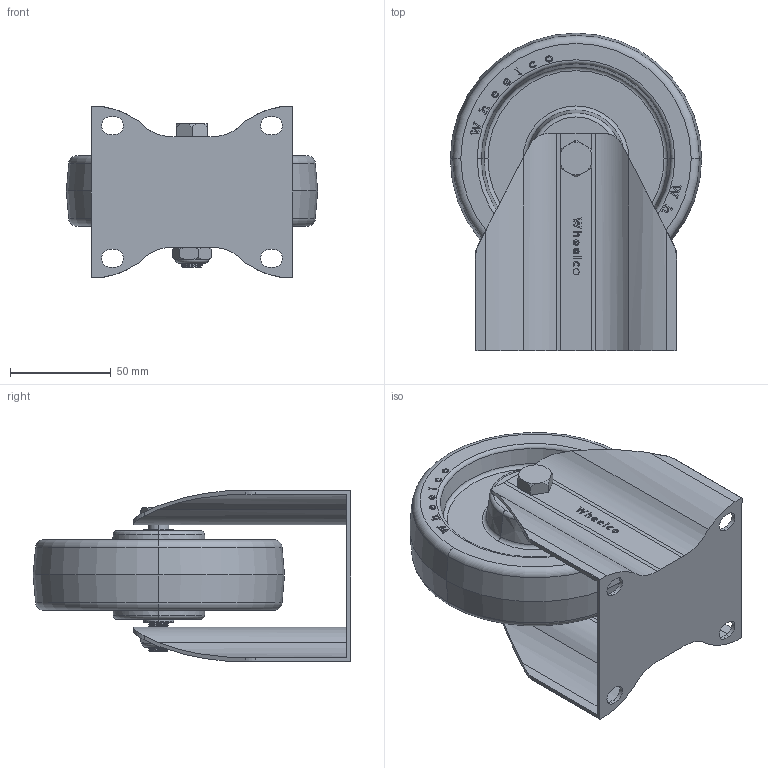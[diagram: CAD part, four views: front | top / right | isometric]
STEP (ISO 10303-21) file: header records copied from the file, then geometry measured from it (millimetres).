
FILE_DESCRIPTION (( 'STEP AP214' ), '1' );
FILE_NAME ('MSU125-SF.step', '2024-01-21T22:23:41', ( '' ), ( '' ), 'SwSTEP 2.0', 'SolidWorks 2022', '' );
FILE_SCHEMA (( 'AUTOMOTIVE_DESIGN' ));
Length unit declared in the file: millimetre
Products named in the file (6): MS125-SF; MSU125-SF; M10 Nyloc SS; M10X65; MSU125; SP15-10-47
Assembly tree (5 placements, depth 2):
  MSU125-SF
    MS125-SF
    M10X65
    M10 Nyloc SS
    SP15-10-47
    MSU125
Bounding box: 125 x 158 x 85 mm (x, y, z)
Volume: 368185.4 mm3; surface area: 108159.2 mm2
Topology: 5 solids, 5 shells, 833 faces, 2257 edges, 1490 vertices
Faces by surface type: plane 393, bspline 242, cylinder 135, cone 33, torus 30
Entity records: 45666 total; most frequent: CARTESIAN_POINT 25163, ORIENTED_EDGE 4514, DIRECTION 2966, EDGE_CURVE 2257, VERTEX_POINT 1490, VECTOR 1356, LINE 1356, EDGE_LOOP 907
